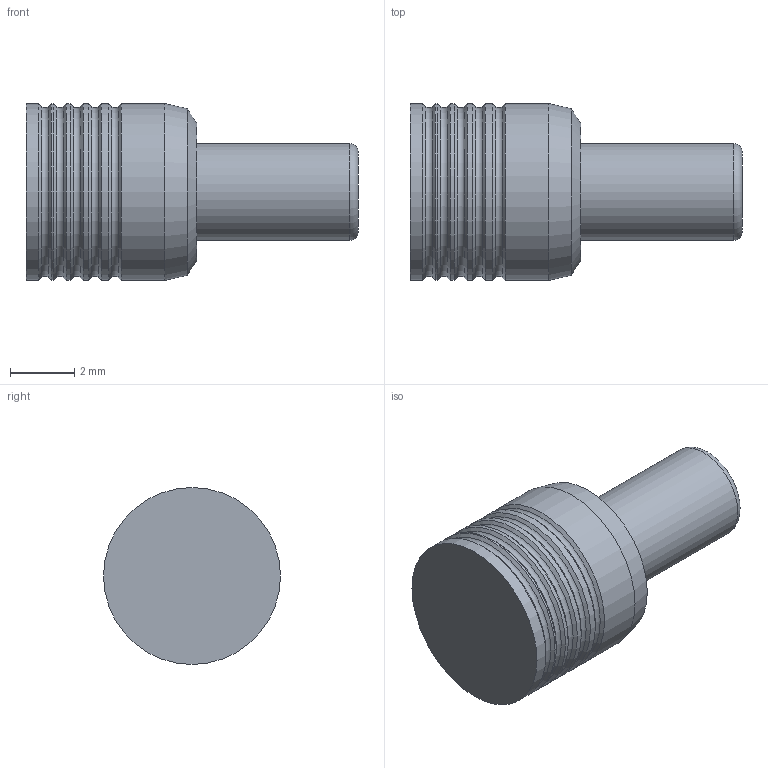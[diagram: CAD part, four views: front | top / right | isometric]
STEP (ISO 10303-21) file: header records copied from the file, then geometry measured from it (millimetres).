
FILE_DESCRIPTION(/* description */ ('LEE VENT VALVE, 558 SERIES, FORWARD, SCREENED'),/* implementation_level */ '2;1');
FILE_NAME(/* name */ '\\absolute\SmWork\Vernon\CCVF5530XXXS.stp',/* time_stamp */ '2024-03-15T09:07:06-04:00',/* author */ ('VernonJ'),/* organization */ (''),/* preprocessor_version */ 'ST-DEVELOPER v18.1',/* originating_system */ 'Autodesk Inventor 2020',/* authorisation */ '');
FILE_SCHEMA (('AUTOMOTIVE_DESIGN { 1 0 10303 214 3 1 1 }'));
Length unit declared in the file: millimetre
Products named in the file (1): CCVF5530XXXS
Bounding box: 10.3 x 5.49 x 5.49 mm (x, y, z)
Volume: 154.9 mm3; surface area: 185.7 mm2
Topology: 1 solids, 1 shells, 28 faces, 90 edges, 65 vertices
Faces by surface type: cone 12, cylinder 7, torus 6, plane 3
Full cylindrical faces by diameter (mm): 3 x1, 5.49 x6
Entity records: 1106 total; most frequent: DIRECTION 219, CARTESIAN_POINT 184, ORIENTED_EDGE 180, AXIS2_PLACEMENT_3D 100, EDGE_CURVE 90, CIRCLE 71, VERTEX_POINT 65, EDGE_LOOP 29
